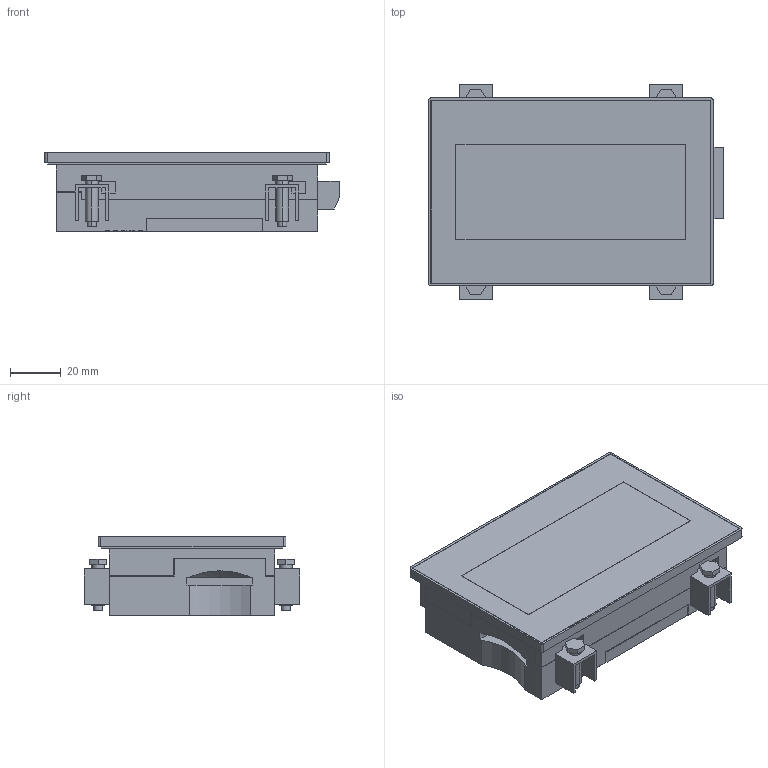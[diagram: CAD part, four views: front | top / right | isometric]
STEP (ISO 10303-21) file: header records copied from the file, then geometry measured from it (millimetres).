
FILE_DESCRIPTION (( 'STEP AP203' ), '1' );
FILE_NAME ('aig703wmn1b5.STEP', '2016-11-22T07:11:45', ( '' ), ( '' ), 'SwSTEP 2.0', 'SolidWorks 2014', '' );
FILE_SCHEMA (( 'CONFIG_CONTROL_DESIGN' ));
Length unit declared in the file: millimetre
Products named in the file (6): aig703wmn1b5_terminal block; aig703wmn1b5_screw; aig703wmn1b5_battery cover; aig703wmn1b5; aig703wmn1b5_default; aig703wmn1b5_bracket
Assembly tree (11 placements, depth 2):
  aig703wmn1b5
    aig703wmn1b5_default
    aig703wmn1b5_terminal block
    aig703wmn1b5_battery cover
    aig703wmn1b5_bracket  x4
    aig703wmn1b5_screw  x4
Bounding box: 116 x 85 x 31 mm (x, y, z)
Volume: 202008.3 mm3; surface area: 44413.7 mm2
Topology: 11 solids, 11 shells, 690 faces, 1767 edges, 1170 vertices
Faces by surface type: plane 636, cylinder 52, bspline 2
Entity records: 17409 total; most frequent: CARTESIAN_POINT 3016, ORIENTED_EDGE 2850, DIRECTION 2623, EDGE_CURVE 1425, VECTOR 1353, LINE 1353, VERTEX_POINT 942, AXIS2_PLACEMENT_3D 635
